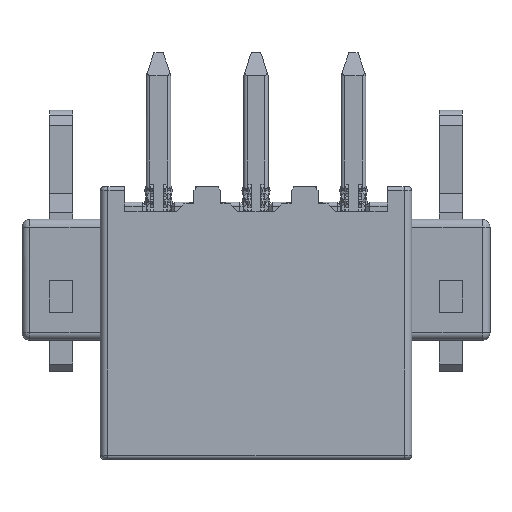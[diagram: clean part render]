
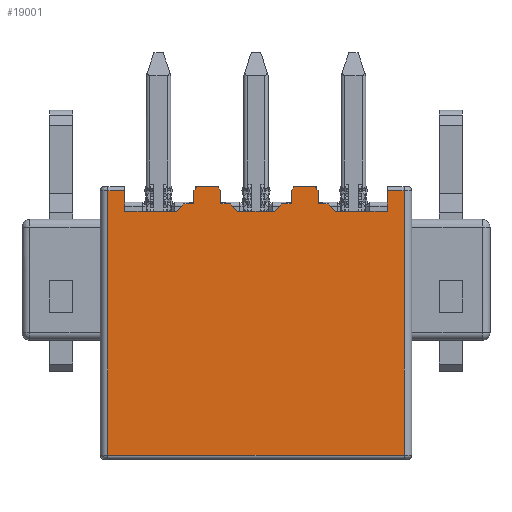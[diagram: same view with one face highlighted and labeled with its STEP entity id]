
A CAD part, top view. The second image highlights one B-rep face of the part: STEP entity #19001.
In plain terms, the highlighted planar face has unit normal (0, 0, 1).
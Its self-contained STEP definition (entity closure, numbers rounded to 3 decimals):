
#1349=DIRECTION('',(1.,0.,0.));
#1350=VECTOR('',#1349,7.72);
#1351=CARTESIAN_POINT('',(-2.59,-3.45,2.425));
#1352=LINE('',#1351,#1350);
#1357=DIRECTION('',(1.,0.,0.));
#1358=VECTOR('',#1357,0.5);
#1359=CARTESIAN_POINT('',(2.29,3.55,2.425));
#1360=LINE('',#1359,#1358);
#1361=DIRECTION('',(-0.707,0.707,0.));
#1362=VECTOR('',#1361,0.141);
#1363=CARTESIAN_POINT('',(2.89,3.45,2.425));
#1364=LINE('',#1363,#1362);
#1365=DIRECTION('',(0.,1.,0.));
#1366=VECTOR('',#1365,0.35);
#1367=CARTESIAN_POINT('',(2.89,3.1,2.425));
#1368=LINE('',#1367,#1366);
#1369=DIRECTION('',(-1.,0.,0.));
#1370=VECTOR('',#1369,0.26);
#1371=CARTESIAN_POINT('',(3.15,3.1,2.425));
#1372=LINE('',#1371,#1370);
#1373=DIRECTION('',(-0.707,0.707,0.));
#1374=VECTOR('',#1373,0.269);
#1375=CARTESIAN_POINT('',(3.34,2.91,2.425));
#1376=LINE('',#1375,#1374);
#1377=DIRECTION('',(-1.,0.,0.));
#1378=VECTOR('',#1377,1.35);
#1379=CARTESIAN_POINT('',(4.69,2.91,2.425));
#1380=LINE('',#1379,#1378);
#1381=DIRECTION('',(0.,1.,0.));
#1382=VECTOR('',#1381,0.54);
#1383=CARTESIAN_POINT('',(-2.15,2.91,2.425));
#1384=LINE('',#1383,#1382);
#1385=DIRECTION('',(-0.707,-0.707,0.));
#1386=VECTOR('',#1385,0.269);
#1387=CARTESIAN_POINT('',(-0.61,3.1,2.425));
#1388=LINE('',#1387,#1386);
#1389=DIRECTION('',(-0.707,-0.707,0.));
#1390=VECTOR('',#1389,0.141);
#1391=CARTESIAN_POINT('',(-0.25,3.55,2.425));
#1392=LINE('',#1391,#1390);
#1393=DIRECTION('',(1.,0.,0.));
#1394=VECTOR('',#1393,0.5);
#1395=CARTESIAN_POINT('',(-0.25,3.55,2.425));
#1396=LINE('',#1395,#1394);
#1397=DIRECTION('',(-0.707,0.707,0.));
#1398=VECTOR('',#1397,0.141);
#1399=CARTESIAN_POINT('',(0.35,3.45,2.425));
#1400=LINE('',#1399,#1398);
#1401=DIRECTION('',(0.,1.,0.));
#1402=VECTOR('',#1401,0.35);
#1403=CARTESIAN_POINT('',(0.35,3.1,2.425));
#1404=LINE('',#1403,#1402);
#1405=DIRECTION('',(-1.,0.,0.));
#1406=VECTOR('',#1405,0.26);
#1407=CARTESIAN_POINT('',(0.61,3.1,2.425));
#1408=LINE('',#1407,#1406);
#1409=DIRECTION('',(-0.707,0.707,0.));
#1410=VECTOR('',#1409,0.269);
#1411=CARTESIAN_POINT('',(0.8,2.91,2.425));
#1412=LINE('',#1411,#1410);
#1413=DIRECTION('',(-1.,0.,0.));
#1414=VECTOR('',#1413,0.94);
#1415=CARTESIAN_POINT('',(1.74,2.91,2.425));
#1416=LINE('',#1415,#1414);
#1417=DIRECTION('',(-0.707,-0.707,0.));
#1418=VECTOR('',#1417,0.269);
#1419=CARTESIAN_POINT('',(1.93,3.1,2.425));
#1420=LINE('',#1419,#1418);
#1421=DIRECTION('',(-0.707,-0.707,0.));
#1422=VECTOR('',#1421,0.141);
#1423=CARTESIAN_POINT('',(2.29,3.55,2.425));
#1424=LINE('',#1423,#1422);
#2222=DIRECTION('',(0.,-1.,0.));
#2223=VECTOR('',#2222,6.9);
#2224=CARTESIAN_POINT('',(5.13,3.45,2.425));
#2225=LINE('',#2224,#2223);
#2290=DIRECTION('',(1.,0.,0.));
#2291=VECTOR('',#2290,0.44);
#2292=CARTESIAN_POINT('',(4.69,3.45,2.425));
#2293=LINE('',#2292,#2291);
#2303=DIRECTION('',(0.,1.,0.));
#2304=VECTOR('',#2303,0.54);
#2305=CARTESIAN_POINT('',(4.69,2.91,2.425));
#2306=LINE('',#2305,#2304);
#6399=DIRECTION('',(0.,1.,0.));
#6400=VECTOR('',#6399,6.9);
#6401=CARTESIAN_POINT('',(-2.59,-3.45,2.425));
#6402=LINE('',#6401,#6400);
#6957=DIRECTION('',(1.,0.,0.));
#6958=VECTOR('',#6957,0.44);
#6959=CARTESIAN_POINT('',(-2.59,3.45,2.425));
#6960=LINE('',#6959,#6958);
#9906=DIRECTION('',(1.,0.,0.));
#9907=VECTOR('',#9906,1.35);
#9908=CARTESIAN_POINT('',(-2.15,2.91,2.425));
#9909=LINE('',#9908,#9907);
#9938=DIRECTION('',(1.,0.,0.));
#9939=VECTOR('',#9938,0.26);
#9940=CARTESIAN_POINT('',(-0.61,3.1,2.425));
#9941=LINE('',#9940,#9939);
#9958=DIRECTION('',(0.,1.,0.));
#9959=VECTOR('',#9958,0.35);
#9960=CARTESIAN_POINT('',(-0.35,3.1,2.425));
#9961=LINE('',#9960,#9959);
#13362=DIRECTION('',(1.,0.,0.));
#13363=VECTOR('',#13362,0.26);
#13364=CARTESIAN_POINT('',(1.93,3.1,2.425));
#13365=LINE('',#13364,#13363);
#13386=DIRECTION('',(0.,1.,0.));
#13387=VECTOR('',#13386,0.35);
#13388=CARTESIAN_POINT('',(2.19,3.1,2.425));
#13389=LINE('',#13388,#13387);
#13597=CARTESIAN_POINT('',(-2.15,2.91,2.425));
#13598=VERTEX_POINT('',#13597);
#13599=CARTESIAN_POINT('',(-2.15,3.45,2.425));
#13600=VERTEX_POINT('',#13599);
#13775=CARTESIAN_POINT('',(-2.59,3.45,2.425));
#13776=VERTEX_POINT('',#13775);
#13777=CARTESIAN_POINT('',(-2.59,-3.45,2.425));
#13778=VERTEX_POINT('',#13777);
#13779=CARTESIAN_POINT('',(-0.8,2.91,2.425));
#13780=VERTEX_POINT('',#13779);
#13781=CARTESIAN_POINT('',(-0.61,3.1,2.425));
#13782=VERTEX_POINT('',#13781);
#13783=CARTESIAN_POINT('',(-0.35,3.1,2.425));
#13784=VERTEX_POINT('',#13783);
#13785=CARTESIAN_POINT('',(-0.35,3.45,2.425));
#13786=VERTEX_POINT('',#13785);
#13787=CARTESIAN_POINT('',(-0.25,3.55,2.425));
#13788=VERTEX_POINT('',#13787);
#14107=CARTESIAN_POINT('',(0.8,2.91,2.425));
#14109=VERTEX_POINT('',#14107);
#14117=CARTESIAN_POINT('',(1.74,2.91,2.425));
#14118=VERTEX_POINT('',#14117);
#14121=CARTESIAN_POINT('',(0.61,3.1,2.425));
#14122=VERTEX_POINT('',#14121);
#14129=CARTESIAN_POINT('',(0.25,3.55,2.425));
#14130=VERTEX_POINT('',#14129);
#14131=CARTESIAN_POINT('',(0.35,3.45,2.425));
#14132=VERTEX_POINT('',#14131);
#14133=CARTESIAN_POINT('',(0.35,3.1,2.425));
#14134=VERTEX_POINT('',#14133);
#14135=CARTESIAN_POINT('',(1.93,3.1,2.425));
#14136=VERTEX_POINT('',#14135);
#14137=CARTESIAN_POINT('',(2.19,3.1,2.425));
#14138=VERTEX_POINT('',#14137);
#14139=CARTESIAN_POINT('',(2.19,3.45,2.425));
#14140=VERTEX_POINT('',#14139);
#14141=CARTESIAN_POINT('',(2.29,3.55,2.425));
#14142=VERTEX_POINT('',#14141);
#14377=CARTESIAN_POINT('',(3.34,2.91,2.425));
#14379=VERTEX_POINT('',#14377);
#14385=CARTESIAN_POINT('',(4.69,2.91,2.425));
#14386=VERTEX_POINT('',#14385);
#14389=CARTESIAN_POINT('',(3.15,3.1,2.425));
#14390=VERTEX_POINT('',#14389);
#14397=CARTESIAN_POINT('',(2.79,3.55,2.425));
#14398=VERTEX_POINT('',#14397);
#14399=CARTESIAN_POINT('',(2.89,3.45,2.425));
#14400=VERTEX_POINT('',#14399);
#14401=CARTESIAN_POINT('',(2.89,3.1,2.425));
#14402=VERTEX_POINT('',#14401);
#14403=CARTESIAN_POINT('',(4.69,3.45,2.425));
#14404=VERTEX_POINT('',#14403);
#14405=CARTESIAN_POINT('',(5.13,3.45,2.425));
#14406=VERTEX_POINT('',#14405);
#14407=CARTESIAN_POINT('',(5.13,-3.45,2.425));
#14408=VERTEX_POINT('',#14407);
#18939=CARTESIAN_POINT('',(0.,0.,2.425));
#18940=DIRECTION('',(0.,0.,1.));
#18941=DIRECTION('',(1.,0.,0.));
#18942=AXIS2_PLACEMENT_3D('',#18939,#18940,#18941);
#18943=PLANE('',#18942);
#18945=ORIENTED_EDGE('',*,*,#18944,.T.);
#18947=ORIENTED_EDGE('',*,*,#18946,.F.);
#18949=ORIENTED_EDGE('',*,*,#18948,.F.);
#18951=ORIENTED_EDGE('',*,*,#18950,.F.);
#18953=ORIENTED_EDGE('',*,*,#18952,.F.);
#18955=ORIENTED_EDGE('',*,*,#18954,.F.);
#18957=ORIENTED_EDGE('',*,*,#18956,.T.);
#18959=ORIENTED_EDGE('',*,*,#18958,.T.);
#18961=ORIENTED_EDGE('',*,*,#18960,.T.);
#18962=ORIENTED_EDGE('',*,*,#18929,.F.);
#18964=ORIENTED_EDGE('',*,*,#18963,.T.);
#18966=ORIENTED_EDGE('',*,*,#18965,.T.);
#18968=ORIENTED_EDGE('',*,*,#18967,.F.);
#18970=ORIENTED_EDGE('',*,*,#18969,.T.);
#18972=ORIENTED_EDGE('',*,*,#18971,.F.);
#18974=ORIENTED_EDGE('',*,*,#18973,.T.);
#18976=ORIENTED_EDGE('',*,*,#18975,.T.);
#18978=ORIENTED_EDGE('',*,*,#18977,.F.);
#18980=ORIENTED_EDGE('',*,*,#18979,.T.);
#18982=ORIENTED_EDGE('',*,*,#18981,.F.);
#18984=ORIENTED_EDGE('',*,*,#18983,.F.);
#18986=ORIENTED_EDGE('',*,*,#18985,.F.);
#18988=ORIENTED_EDGE('',*,*,#18987,.F.);
#18990=ORIENTED_EDGE('',*,*,#18989,.F.);
#18992=ORIENTED_EDGE('',*,*,#18991,.F.);
#18994=ORIENTED_EDGE('',*,*,#18993,.T.);
#18996=ORIENTED_EDGE('',*,*,#18995,.T.);
#18998=ORIENTED_EDGE('',*,*,#18997,.F.);
#18999=EDGE_LOOP('',(#18945,#18947,#18949,#18951,#18953,#18955,#18957,#18959,
#18961,#18962,#18964,#18966,#18968,#18970,#18972,#18974,#18976,#18978,#18980,
#18982,#18984,#18986,#18988,#18990,#18992,#18994,#18996,#18998));
#19000=FACE_OUTER_BOUND('',#18999,.F.);
#19001=ADVANCED_FACE('',(#19000),#18943,.T.);
#18929=EDGE_CURVE('',#13778,#14408,#1352,.T.);
#18944=EDGE_CURVE('',#14142,#14398,#1360,.T.);
#18946=EDGE_CURVE('',#14400,#14398,#1364,.T.);
#18948=EDGE_CURVE('',#14402,#14400,#1368,.T.);
#18950=EDGE_CURVE('',#14390,#14402,#1372,.T.);
#18952=EDGE_CURVE('',#14379,#14390,#1376,.T.);
#18954=EDGE_CURVE('',#14386,#14379,#1380,.T.);
#18956=EDGE_CURVE('',#14386,#14404,#2306,.T.);
#18958=EDGE_CURVE('',#14404,#14406,#2293,.T.);
#18960=EDGE_CURVE('',#14406,#14408,#2225,.T.);
#18963=EDGE_CURVE('',#13778,#13776,#6402,.T.);
#18965=EDGE_CURVE('',#13776,#13600,#6960,.T.);
#18967=EDGE_CURVE('',#13598,#13600,#1384,.T.);
#18969=EDGE_CURVE('',#13598,#13780,#9909,.T.);
#18971=EDGE_CURVE('',#13782,#13780,#1388,.T.);
#18973=EDGE_CURVE('',#13782,#13784,#9941,.T.);
#18975=EDGE_CURVE('',#13784,#13786,#9961,.T.);
#18977=EDGE_CURVE('',#13788,#13786,#1392,.T.);
#18979=EDGE_CURVE('',#13788,#14130,#1396,.T.);
#18981=EDGE_CURVE('',#14132,#14130,#1400,.T.);
#18983=EDGE_CURVE('',#14134,#14132,#1404,.T.);
#18985=EDGE_CURVE('',#14122,#14134,#1408,.T.);
#18987=EDGE_CURVE('',#14109,#14122,#1412,.T.);
#18989=EDGE_CURVE('',#14118,#14109,#1416,.T.);
#18991=EDGE_CURVE('',#14136,#14118,#1420,.T.);
#18993=EDGE_CURVE('',#14136,#14138,#13365,.T.);
#18995=EDGE_CURVE('',#14138,#14140,#13389,.T.);
#18997=EDGE_CURVE('',#14142,#14140,#1424,.T.);
